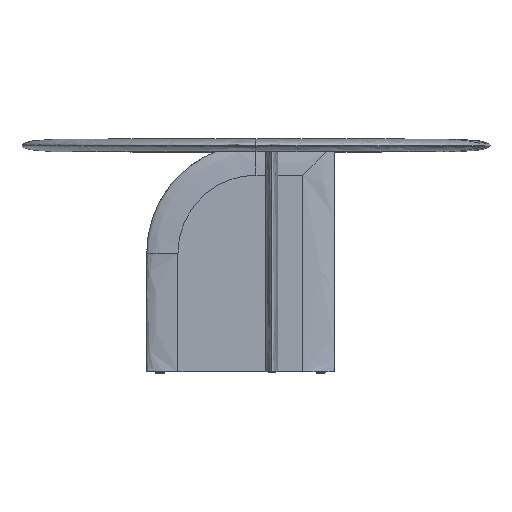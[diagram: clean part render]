
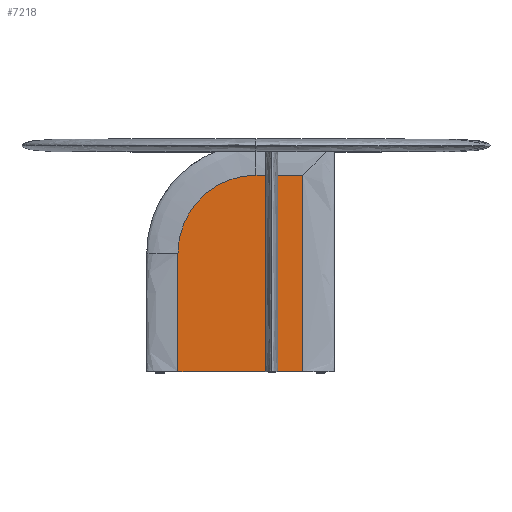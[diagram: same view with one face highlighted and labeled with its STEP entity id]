
A CAD part, top view. The second image highlights one B-rep face of the part: STEP entity #7218.
In plain terms, the highlighted planar face has unit normal (0, 0, 1).
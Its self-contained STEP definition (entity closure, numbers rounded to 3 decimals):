
#8 = CARTESIAN_POINT ( 'NONE',  ( 1206.606, 412.622, -280. ) ) ;
#70 = CARTESIAN_POINT ( 'NONE',  ( 1455., 630., -280. ) ) ;
#133 = DIRECTION ( 'NONE',  ( 0., 0., -1. ) ) ;
#529 = CARTESIAN_POINT ( 'NONE',  ( 1470., 630., -280. ) ) ;
#598 = DIRECTION ( 'NONE',  ( -1., 0., 0. ) ) ;
#710 = VERTEX_POINT ( 'NONE', #1343 ) ;
#1121 = ORIENTED_EDGE ( 'NONE', *, *, #10042, .T. ) ;
#1237 = PLANE ( 'NONE',  #10159 ) ;
#1271 = ORIENTED_EDGE ( 'NONE', *, *, #1673, .T. ) ;
#1343 = CARTESIAN_POINT ( 'NONE',  ( 1605., 630., -280. ) ) ;
#1673 = EDGE_CURVE ( 'NONE', #7529, #9003, #4923, .T. ) ;
#1766 = CARTESIAN_POINT ( 'NONE',  ( 1605., 630., -280. ) ) ;
#1872 = CARTESIAN_POINT ( 'NONE',  ( 1266.654, 545.207, -280. ) ) ;
#1940 = CARTESIAN_POINT ( 'NONE',  ( 1256.294, 532.575, -280. ) ) ;
#2196 = FACE_BOUND ( 'NONE', #8957, .T. ) ;
#2234 = AXIS2_PLACEMENT_3D ( 'NONE', #9219, #8240, #9955 ) ;
#2963 = DIRECTION ( 'NONE',  ( -1., 0., 0. ) ) ;
#2967 = CARTESIAN_POINT ( 'NONE',  ( 1510., 630., -280. ) ) ;
#3026 = VECTOR ( 'NONE', #4193, 1000. ) ;
#3029 = CARTESIAN_POINT ( 'NONE',  ( 1438.663, 629.598, -280. ) ) ;
#3037 = CARTESIAN_POINT ( 'NONE',  ( 1205., 380., -280. ) ) ;
#3122 = ORIENTED_EDGE ( 'NONE', *, *, #9585, .T. ) ;
#3244 = ORIENTED_EDGE ( 'NONE', *, *, #6494, .T. ) ;
#3248 = CARTESIAN_POINT ( 'NONE',  ( 1605., 0., -280. ) ) ;
#3362 = CARTESIAN_POINT ( 'NONE',  ( 1455., 630., -280. ) ) ;
#3374 = B_SPLINE_CURVE_WITH_KNOTS ( 'NONE', 3,
 ( #1766, #5265, #6241, #9958 ),
 .UNSPECIFIED., .F., .F.,
 ( 4, 4 ),
 ( 0.4, 0.78 ),
 .UNSPECIFIED. ) ;
#3383 = DIRECTION ( 'NONE',  ( 0., 0., -1. ) ) ;
#3697 = CARTESIAN_POINT ( 'NONE',  ( 1422.405, 627.992, -280. ) ) ;
#3706 = VERTEX_POINT ( 'NONE', #2967 ) ;
#3872 = CARTESIAN_POINT ( 'NONE',  ( 1366.887, 614.1, -280. ) ) ;
#3934 = CARTESIAN_POINT ( 'NONE',  ( 1390.209, 621.588, -280. ) ) ;
#4193 = DIRECTION ( 'NONE',  ( 1., 0., 0. ) ) ;
#4337 = AXIS2_PLACEMENT_3D ( 'NONE', #10726, #3383, #598 ) ;
#4828 = CARTESIAN_POINT ( 'NONE',  ( 1289.793, 568.346, -280. ) ) ;
#4923 = B_SPLINE_CURVE_WITH_KNOTS ( 'NONE', 3,
 ( #7564, #11300, #9459, #7744 ),
 .UNSPECIFIED., .F., .F.,
 ( 4, 4 ),
 ( 0., 1. ),
 .UNSPECIFIED. ) ;
#5180 = VERTEX_POINT ( 'NONE', #10486 ) ;
#5265 = CARTESIAN_POINT ( 'NONE',  ( 1573.333, 630., -280. ) ) ;
#5372 = CARTESIAN_POINT ( 'NONE',  ( 1605., 730.6, -280. ) ) ;
#5500 = CARTESIAN_POINT ( 'NONE',  ( 1344.213, 604.709, -280. ) ) ;
#5623 = CARTESIAN_POINT ( 'NONE',  ( 1205., 396.365, -280. ) ) ;
#5690 = CARTESIAN_POINT ( 'NONE',  ( 1329.807, 597.003, -280. ) ) ;
#5802 = EDGE_CURVE ( 'NONE', #10905, #7529, #11827, .T. ) ;
#5861 = CIRCLE ( 'NONE', #8382, 5. ) ;
#5892 = FACE_OUTER_BOUND ( 'NONE', #6170, .T. ) ;
#5948 = CARTESIAN_POINT ( 'NONE',  ( 0., 0., -280. ) ) ;
#6085 = VECTOR ( 'NONE', #11892, 1000. ) ;
#6170 = EDGE_LOOP ( 'NONE', ( #7004, #10752, #1121, #9652, #1271, #8874, #8215 ) ) ;
#6241 = CARTESIAN_POINT ( 'NONE',  ( 1541.667, 630., -280. ) ) ;
#6494 = EDGE_CURVE ( 'NONE', #6693, #5180, #5861, .T. ) ;
#6526 = CARTESIAN_POINT ( 'NONE',  ( 1237.997, 505.193, -280. ) ) ;
#6693 = VERTEX_POINT ( 'NONE', #9687 ) ;
#7004 = ORIENTED_EDGE ( 'NONE', *, *, #8177, .T. ) ;
#7218 = ADVANCED_FACE ( 'NONE', ( #2196, #5892 ), #1237, .F. ) ;
#7432 = CARTESIAN_POINT ( 'NONE',  ( 1302.425, 578.707, -280. ) ) ;
#7529 = VERTEX_POINT ( 'NONE', #3037 ) ;
#7560 = CARTESIAN_POINT ( 'NONE',  ( 1398.154, 623.575, -280. ) ) ;
#7564 = CARTESIAN_POINT ( 'NONE',  ( 1205., 380., -280. ) ) ;
#7704 = CARTESIAN_POINT ( 'NONE',  ( 1500., 630., -280. ) ) ;
#7722 = CARTESIAN_POINT ( 'NONE',  ( 1455., 630., -280. ) ) ;
#7744 = CARTESIAN_POINT ( 'NONE',  ( 1205., 0., -280. ) ) ;
#7792 = EDGE_CURVE ( 'NONE', #3706, #11066, #8410, .T. ) ;
#8177 = EDGE_CURVE ( 'NONE', #710, #3706, #3374, .T. ) ;
#8215 = ORIENTED_EDGE ( 'NONE', *, *, #9921, .F. ) ;
#8240 = DIRECTION ( 'NONE',  ( 0., 0., -1. ) ) ;
#8355 = CARTESIAN_POINT ( 'NONE',  ( 1230.292, 490.788, -280. ) ) ;
#8382 = AXIS2_PLACEMENT_3D ( 'NONE', #9332, #133, #2963 ) ;
#8410 = CIRCLE ( 'NONE', #4337, 5. ) ;
#8737 = LINE ( 'NONE', #11554, #3026 ) ;
#8738 = DIRECTION ( 'NONE',  ( -1., 0., 0. ) ) ;
#8815 = CARTESIAN_POINT ( 'NONE',  ( 1485., 630., -280. ) ) ;
#8874 = ORIENTED_EDGE ( 'NONE', *, *, #9466, .T. ) ;
#8957 = EDGE_LOOP ( 'NONE', ( #3244, #3122 ) ) ;
#8994 = VERTEX_POINT ( 'NONE', #3248 ) ;
#9003 = VERTEX_POINT ( 'NONE', #10887 ) ;
#9219 = CARTESIAN_POINT ( 'NONE',  ( 1505., 530., -280. ) ) ;
#9332 = CARTESIAN_POINT ( 'NONE',  ( 1505., 530., -280. ) ) ;
#9396 = CARTESIAN_POINT ( 'NONE',  ( 1205., 380., -280. ) ) ;
#9459 = CARTESIAN_POINT ( 'NONE',  ( 1205., 126.667, -280. ) ) ;
#9466 = EDGE_CURVE ( 'NONE', #9003, #8994, #8737, .T. ) ;
#9585 = EDGE_CURVE ( 'NONE', #5180, #6693, #10966, .T. ) ;
#9652 = ORIENTED_EDGE ( 'NONE', *, *, #5802, .T. ) ;
#9654 = DIRECTION ( 'NONE',  ( 0., 0., -1. ) ) ;
#9687 = CARTESIAN_POINT ( 'NONE',  ( 1510., 530., -280. ) ) ;
#9921 = EDGE_CURVE ( 'NONE', #710, #8994, #10914, .T. ) ;
#9955 = DIRECTION ( 'NONE',  ( -1., 0., 0. ) ) ;
#9958 = CARTESIAN_POINT ( 'NONE',  ( 1510., 630., -280. ) ) ;
#10042 = EDGE_CURVE ( 'NONE', #11066, #10905, #11737, .T. ) ;
#10130 = CARTESIAN_POINT ( 'NONE',  ( 1213.031, 444.921, -280. ) ) ;
#10159 = AXIS2_PLACEMENT_3D ( 'NONE', #5948, #9654, #8738 ) ;
#10246 = CARTESIAN_POINT ( 'NONE',  ( 1374.576, 616.851, -280. ) ) ;
#10312 = CARTESIAN_POINT ( 'NONE',  ( 1414.302, 626.787, -280. ) ) ;
#10486 = CARTESIAN_POINT ( 'NONE',  ( 1500., 530., -280. ) ) ;
#10528 = CARTESIAN_POINT ( 'NONE',  ( 1500., 630., -280. ) ) ;
#10726 = CARTESIAN_POINT ( 'NONE',  ( 1505., 630., -280. ) ) ;
#10752 = ORIENTED_EDGE ( 'NONE', *, *, #7792, .T. ) ;
#10887 = CARTESIAN_POINT ( 'NONE',  ( 1205., 0., -280. ) ) ;
#10905 = VERTEX_POINT ( 'NONE', #3362 ) ;
#10914 = LINE ( 'NONE', #5372, #6085 ) ;
#10966 = CIRCLE ( 'NONE', #2234, 5. ) ;
#11066 = VERTEX_POINT ( 'NONE', #7704 ) ;
#11297 = CARTESIAN_POINT ( 'NONE',  ( 1446.818, 630., -280. ) ) ;
#11300 = CARTESIAN_POINT ( 'NONE',  ( 1205., 253.333, -280. ) ) ;
#11358 = CARTESIAN_POINT ( 'NONE',  ( 1217.768, 460.554, -280. ) ) ;
#11554 = CARTESIAN_POINT ( 'NONE',  ( 1105., 0., -280. ) ) ;
#11737 = B_SPLINE_CURVE_WITH_KNOTS ( 'NONE', 3,
 ( #10528, #8815, #529, #7722 ),
 .UNSPECIFIED., .F., .F.,
 ( 4, 4 ),
 ( 0.82, 1. ),
 .UNSPECIFIED. ) ;
#11827 = B_SPLINE_CURVE_WITH_KNOTS ( 'NONE', 3,
 ( #70, #11297, #3029, #3697, #10312, #7560, #3934, #10246, #3872, #5500, #5690, #7432, #4828, #1872, #1940, #6526, #8355, #11358, #10130, #8, #5623, #9396 ),
 .UNSPECIFIED., .F., .F.,
 ( 4, 2, 2, 2, 2, 2, 2, 2, 2, 2, 4 ),
 ( 0., 0.062, 0.125, 0.187, 0.25, 0.375, 0.5, 0.625, 0.75, 0.875, 1. ),
 .UNSPECIFIED. ) ;
#11892 = DIRECTION ( 'NONE',  ( 0., -1., 0. ) ) ;
